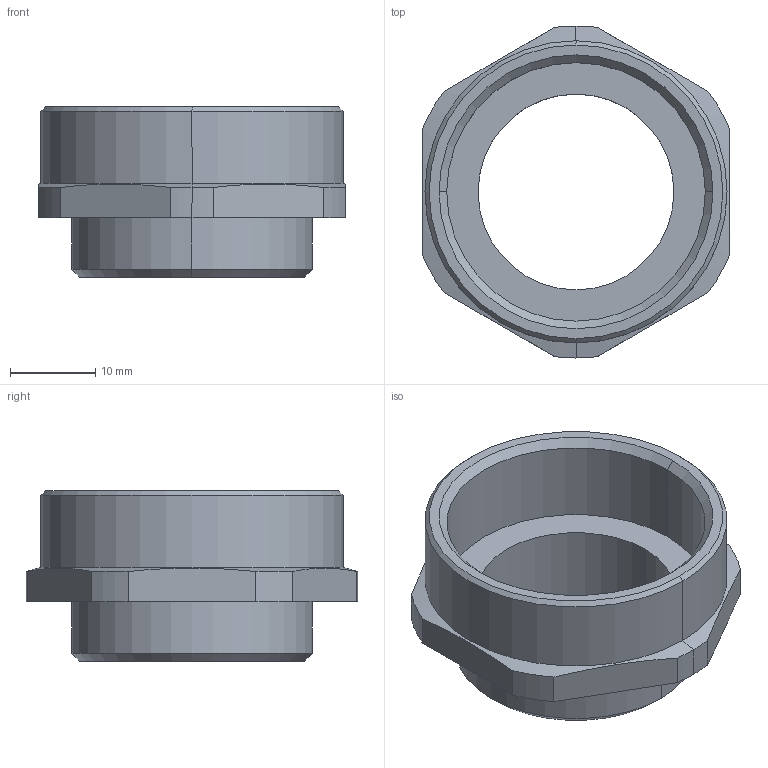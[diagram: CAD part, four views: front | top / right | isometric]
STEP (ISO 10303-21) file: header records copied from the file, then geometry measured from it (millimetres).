
FILE_DESCRIPTION (( 'STEP AP203' ), '1' );
FILE_NAME ('PG21M32.STEP', '2006-05-23T06:30:11', ( ' ' ), ( '' ), 'SwSTEP 2.0', 'SolidWorks 2005278', '' );
FILE_SCHEMA (( 'CONFIG_CONTROL_DESIGN' ));
Length unit declared in the file: millimetre
Products named in the file (1): PG21M32
Bounding box: 36 x 39 x 20 mm (x, y, z)
Volume: 6051.5 mm3; surface area: 4996 mm2
Topology: 1 solids, 1 shells, 72 faces, 184 edges, 119 vertices
Faces by surface type: plane 47, cylinder 15, cone 10
Entity records: 2254 total; most frequent: CARTESIAN_POINT 402, ORIENTED_EDGE 368, DIRECTION 363, EDGE_CURVE 184, VECTOR 139, LINE 139, VERTEX_POINT 119, AXIS2_PLACEMENT_3D 112
